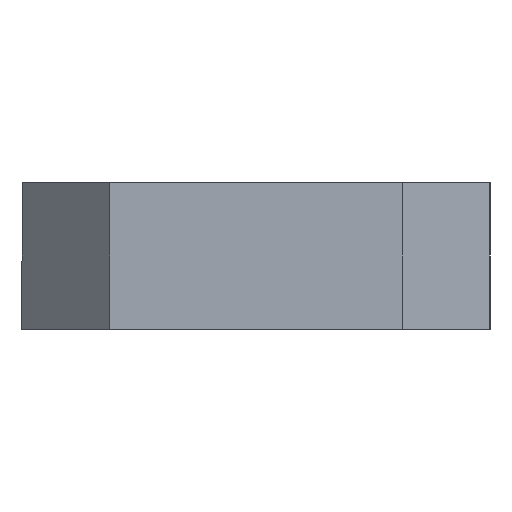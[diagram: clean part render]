
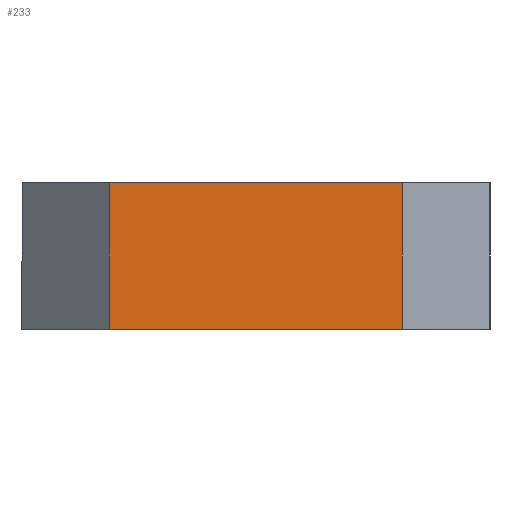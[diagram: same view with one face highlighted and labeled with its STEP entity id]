
A CAD part, left-side view. The second image highlights one B-rep face of the part: STEP entity #233.
In plain terms, the highlighted planar face has unit normal (-1, 0, 0).
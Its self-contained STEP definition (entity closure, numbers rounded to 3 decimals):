
#3 = FACE_OUTER_BOUND ( 'NONE', #226, .T. ) ;
#17 = LINE ( 'NONE', #333, #454 ) ;
#34 = DIRECTION ( 'NONE',  ( 0., -1., 0. ) ) ;
#42 = VECTOR ( 'NONE', #435, 1000. ) ;
#52 = CARTESIAN_POINT ( 'NONE',  ( 0., -13., 0. ) ) ;
#59 = CARTESIAN_POINT ( 'NONE',  ( 0., -3., -5. ) ) ;
#63 = AXIS2_PLACEMENT_3D ( 'NONE', #317, #552, #34 ) ;
#74 = VERTEX_POINT ( 'NONE', #59 ) ;
#93 = CARTESIAN_POINT ( 'NONE',  ( 0., -8., 0. ) ) ;
#101 = DIRECTION ( 'NONE',  ( 0., 0., 1. ) ) ;
#120 = VERTEX_POINT ( 'NONE', #52 ) ;
#156 = VERTEX_POINT ( 'NONE', #330 ) ;
#162 = ORIENTED_EDGE ( 'NONE', *, *, #178, .F. ) ;
#178 = EDGE_CURVE ( 'NONE', #156, #74, #445, .T. ) ;
#182 = EDGE_CURVE ( 'NONE', #156, #120, #17, .T. ) ;
#225 = CARTESIAN_POINT ( 'NONE',  ( 0., -3., 0. ) ) ;
#226 = EDGE_LOOP ( 'NONE', ( #318, #338, #162, #275 ) ) ;
#233 = ADVANCED_FACE ( 'NONE', ( #3 ), #476, .T. ) ;
#242 = DIRECTION ( 'NONE',  ( 0., 1., 0. ) ) ;
#249 = VERTEX_POINT ( 'NONE', #225 ) ;
#275 = ORIENTED_EDGE ( 'NONE', *, *, #182, .T. ) ;
#294 = EDGE_CURVE ( 'NONE', #120, #249, #380, .T. ) ;
#317 = CARTESIAN_POINT ( 'NONE',  ( 0., -3., -5. ) ) ;
#318 = ORIENTED_EDGE ( 'NONE', *, *, #294, .T. ) ;
#330 = CARTESIAN_POINT ( 'NONE',  ( 0., -13., -5. ) ) ;
#333 = CARTESIAN_POINT ( 'NONE',  ( 0., -13., -2.5 ) ) ;
#338 = ORIENTED_EDGE ( 'NONE', *, *, #511, .F. ) ;
#343 = VECTOR ( 'NONE', #242, 1000. ) ;
#380 = LINE ( 'NONE', #93, #498 ) ;
#427 = CARTESIAN_POINT ( 'NONE',  ( 0., -3., -2.5 ) ) ;
#435 = DIRECTION ( 'NONE',  ( 0., 0., 1. ) ) ;
#445 = LINE ( 'NONE', #542, #343 ) ;
#450 = DIRECTION ( 'NONE',  ( 0., 1., 0. ) ) ;
#454 = VECTOR ( 'NONE', #101, 1000. ) ;
#476 = PLANE ( 'NONE',  #63 ) ;
#498 = VECTOR ( 'NONE', #450, 1000. ) ;
#507 = LINE ( 'NONE', #427, #42 ) ;
#511 = EDGE_CURVE ( 'NONE', #74, #249, #507, .T. ) ;
#542 = CARTESIAN_POINT ( 'NONE',  ( 0., -8., -5. ) ) ;
#552 = DIRECTION ( 'NONE',  ( -1., 0., 0. ) ) ;
